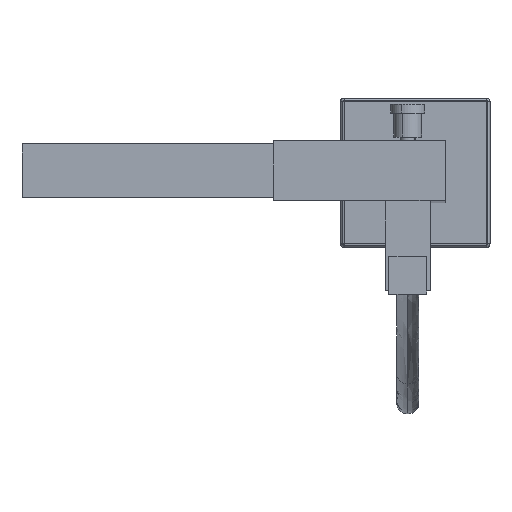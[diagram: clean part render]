
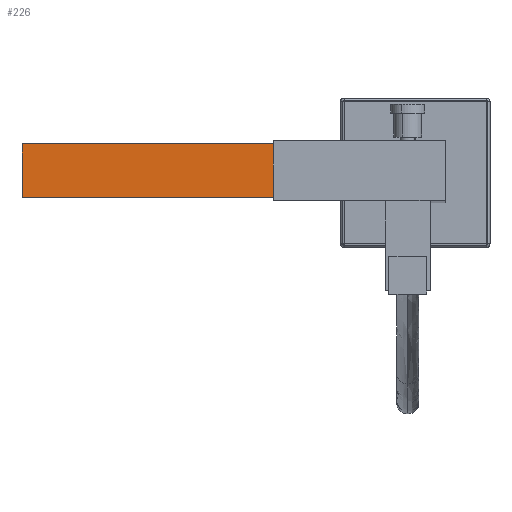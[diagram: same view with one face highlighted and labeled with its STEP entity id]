
A CAD part, top view. The second image highlights one B-rep face of the part: STEP entity #226.
In plain terms, the highlighted planar face has unit normal (0, 0, 1).
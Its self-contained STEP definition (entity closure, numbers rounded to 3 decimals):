
#47=CARTESIAN_POINT('',(1477.814,-450.798,191.));
#48=VERTEX_POINT('',#47);
#103=CARTESIAN_POINT('',(1477.814,-414.798,191.));
#104=VERTEX_POINT('',#103);
#157=CARTESIAN_POINT('',(1477.814,-414.798,191.));
#158=DIRECTION('',(0.0,-1.0,0.0));
#159=VECTOR('',#158,36.0);
#160=LINE('',#157,#159);
#161=EDGE_CURVE('',#104,#48,#160,.T.);
#196=CARTESIAN_POINT('',(1489.864,-452.598,191.));
#197=DIRECTION('',(0.0,0.0,1.0));
#198=DIRECTION('',(0.0,1.0,0.0));
#199=AXIS2_PLACEMENT_3D('',#196,#197,#198);
#200=PLANE('',#199);
#201=ORIENTED_EDGE('',*,*,#161,.F.);
#202=CARTESIAN_POINT('',(1236.814,-414.798,191.));
#203=VERTEX_POINT('',#202);
#204=CARTESIAN_POINT('',(1477.814,-414.798,191.));
#205=DIRECTION('',(-1.0,0.0,0.0));
#206=VECTOR('',#205,241.0);
#207=LINE('',#204,#206);
#208=EDGE_CURVE('',#104,#203,#207,.T.);
#209=ORIENTED_EDGE('',*,*,#208,.T.);
#210=CARTESIAN_POINT('',(1236.814,-450.798,191.));
#211=VERTEX_POINT('',#210);
#212=CARTESIAN_POINT('',(1236.814,-414.798,191.));
#213=DIRECTION('',(0.0,-1.0,0.0));
#214=VECTOR('',#213,36.0);
#215=LINE('',#212,#214);
#216=EDGE_CURVE('',#203,#211,#215,.T.);
#217=ORIENTED_EDGE('',*,*,#216,.T.);
#218=CARTESIAN_POINT('',(1477.814,-450.798,191.));
#219=DIRECTION('',(-1.0,0.0,0.0));
#220=VECTOR('',#219,241.0);
#221=LINE('',#218,#220);
#222=EDGE_CURVE('',#48,#211,#221,.T.);
#223=ORIENTED_EDGE('',*,*,#222,.F.);
#224=EDGE_LOOP('',(#201,#209,#217,#223));
#225=FACE_OUTER_BOUND('',#224,.T.);
#226=ADVANCED_FACE('',(#225),#200,.T.);
